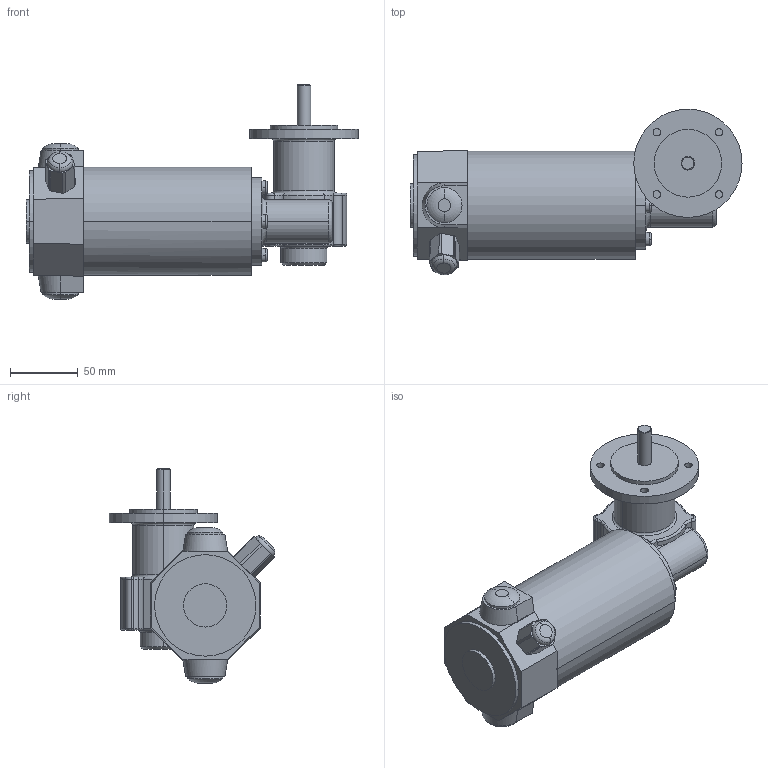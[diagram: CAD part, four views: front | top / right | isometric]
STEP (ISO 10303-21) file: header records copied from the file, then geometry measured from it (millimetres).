
FILE_DESCRIPTION(('OneSpaceDesigner STEP Export'),'2;1');
FILE_NAME('EPG13_GF126.stp','2008-07-02T14:28:16',(''),(''),'OneSpace Designer STEP processor (Jan. 2003) for AP214(CD)(Solid Model)','OneSpace Designer 12.01D 09-Jul-2004 (C) CoCreate Software GmbH','');
FILE_SCHEMA(('AUTOMOTIVE_DESIGN_CC2 {1 2 10303 214 -1 1 5 1}'));
Length unit declared in the file: millimetre
Products named in the file (2): EPG13_GF126
Assembly tree (1 placements, depth 2):
  EPG13_GF126
    EPG13_GF126
Bounding box: 245.5 x 122.39 x 158.5 mm (x, y, z)
Volume: 1176799.8 mm3; surface area: 90728 mm2
Topology: 1 solids, 1 shells, 212 faces, 513 edges, 319 vertices
Faces by surface type: cylinder 85, torus 74, plane 47, cone 4, bspline 2
Entity records: 8380 total; most frequent: CARTESIAN_POINT 3902, ORIENTED_EDGE 1026, DIRECTION 845, EDGE_CURVE 513, AXIS2_PLACEMENT_3D 350, VERTEX_POINT 319, EDGE_LOOP 236, CIRCLE 215
